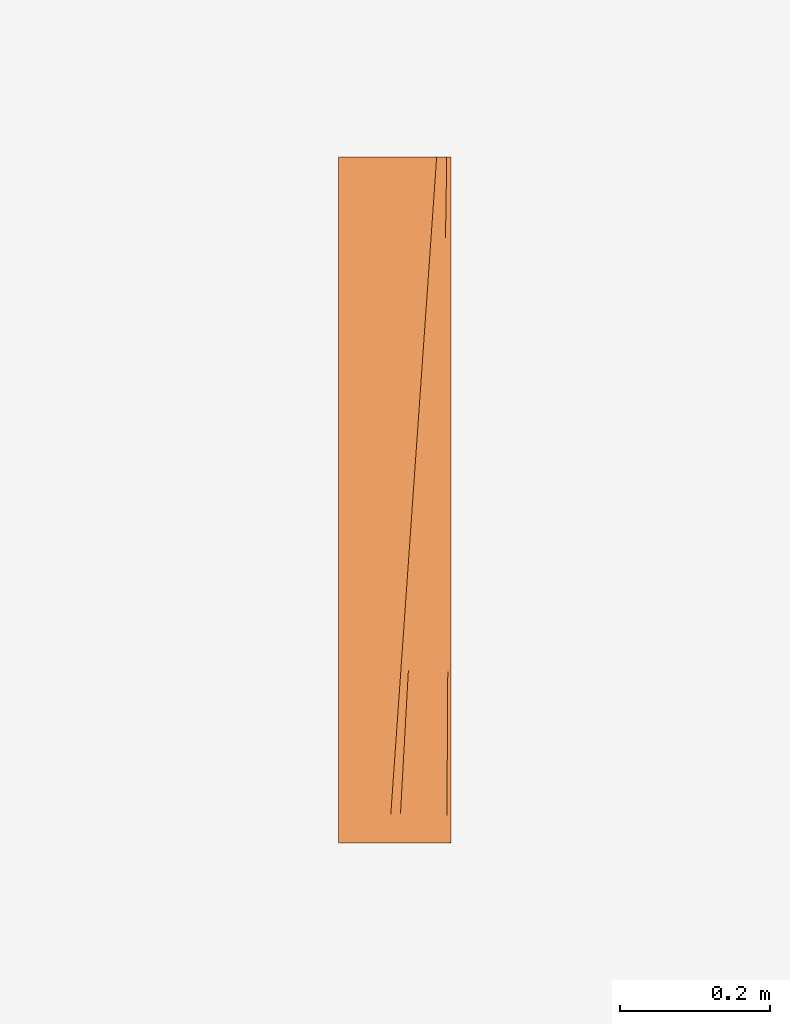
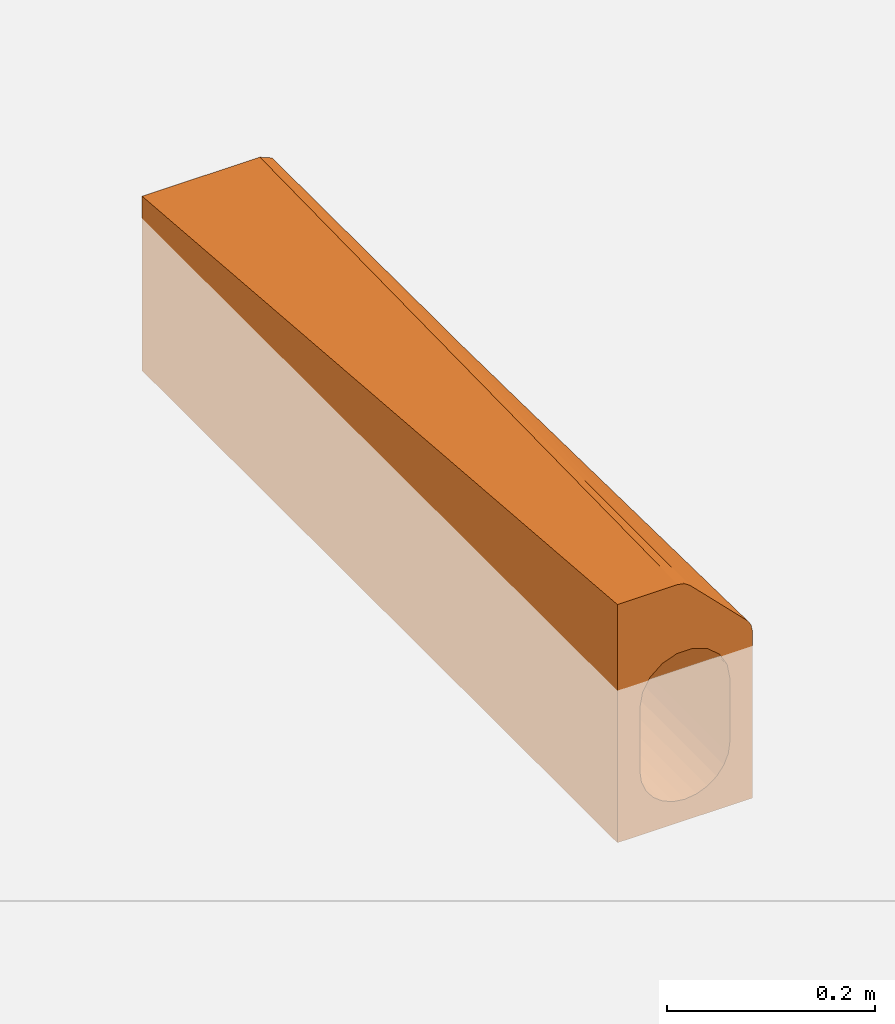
# One storey, part 2 of 2: 1 proxy.
"""IFC2X3 building model written with IfcOpenShell, lengths in millimetres."""

from ifc_helpers import new_model, entity, si_unit, converted_unit, direction, frame, origin, place, context, subcontext, project, spatial, face_set, surface_model, source, transform, mapped, material, element, save


model = new_model("IFC2X3")

# Units and contexts
model_context = context("Model", 3, precision=1e-06, world=origin(), true_north=direction((2.0, 6.12303176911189e-17, 1.0)))
context_of_model = context(None, 3, precision=1e-06, world=origin(), true_north=direction((2.0, 6.12303176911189e-17, 1.0)))
body_context = subcontext(model_context, "Body", "Model", "MODEL_VIEW")
ifc_project = project(units=[si_unit("LENGTHUNIT", "METRE", prefix="MILLI"), si_unit("AREAUNIT", "SQUARE_METRE", prefix="MILLI"), si_unit("VOLUMEUNIT", "CUBIC_METRE", prefix="MILLI"), converted_unit("PLANEANGLEUNIT", "DEGREE", entity("IfcRatioMeasure", 0.0174532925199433), si_unit("PLANEANGLEUNIT", "RADIAN"), dimensions=[0, 0, 0, 0, 0, 0, 0]), si_unit("TIMEUNIT", "SECOND")], contexts=[model_context, context_of_model])

# Site, building, storey
site_placement = place(None, origin())
site = spatial("IfcSite", under=ifc_project, at=site_placement, Name="Default", CompositionType="ELEMENT")
building_placement = place(site_placement, origin())
building = spatial("IfcBuilding", under=site, at=building_placement, CompositionType="ELEMENT")
storey_placement = place(building_placement, origin())
storey = spatial("IfcBuildingStorey", under=building, at=storey_placement, Name="Level 1", CompositionType="ELEMENT", Elevation=0.0)

# Proxy
ifc_material = material(Name="ACO Polymer Concrete.")
shared_shape = source(origin(), body_context, "Body", "SurfaceModel", [
    surface_model("IfcFaceBasedSurfaceModel", [(-75.0, 915.0, 25.0), (56.0, 915.0, 25.0), (69.4350288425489, 915.0, 19.4350288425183), (75.0, 915.0, 6.0), (75.0, 915.0, -180.0), (-75.0, 915.0, -180.0), (50.0, 915.0, -105.0), (48.2962913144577, 915.0, -117.940952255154), (43.3012701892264, 915.0, -130.0), (35.3553390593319, 915.0, -140.355339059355), (25.0, 915.0, -148.30127018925), (12.9409522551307, 915.0, -153.296291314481), (0.0, 915.0, -155.0), (-12.9409522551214, 915.0, -153.296291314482), (-25.0, 915.0, -148.30127018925), (-35.3553390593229, 915.0, -140.355339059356), (-43.3012701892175, 915.0, -130.0), (-48.2962913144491, 915.0, -117.940952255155), (-50.0, 915.0, -105.0), (-46.9862384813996, 915.0, -87.9034098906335), (-38.3113968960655, 915.0, -72.8715567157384), (-25.0056217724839, 915.0, -61.7019760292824), (-8.68555356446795, 915.0, -55.7601669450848), (8.67358370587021, 915.0, -55.7580570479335), (25.0023871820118, 915.0, -61.7001081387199), (38.2971791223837, 915.0, -72.8546104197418), (46.9851789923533, 915.0, -87.90049839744), (-75.0, 0.0, 100.0), (-75.0, 0.0, -180.0), (75.0, 0.0, -180.0), (75.0, 0.0, 17.1299423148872), (73.5537111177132, 0.0, 24.4009275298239), (69.4350288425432, 0.0, 30.5649711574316), (5.56497115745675, 0.0, 94.4350288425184), (-0.599072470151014, 0.0, 98.5537111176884), (-7.87005768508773, 0.0, 100.0), (50.0, 0.0, -105.0), (48.2962913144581, 0.0, -117.940952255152), (43.301270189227, 0.0, -130.0), (35.3553390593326, 0.0, -140.355339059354), (25.0, 0.0, -148.301270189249), (12.9409522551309, 0.0, -153.296291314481), (0.0, 0.0, -155.0), (-12.9409522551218, 0.0, -153.296291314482), (-25.0, 0.0, -148.30127018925), (-35.3553390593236, 0.0, -140.355339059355), (-43.3012701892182, 0.0, -130.0), (-48.2962913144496, 0.0, -117.940952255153), (-50.0, 0.0, -105.0), (-50.0, 0.0, -30.0), (-46.9851789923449, 0.0, -12.9004983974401), (-38.2971791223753, 0.0, 2.14538958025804), (-25.0023871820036, 0.0, 13.2998918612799), (-8.67358370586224, 0.0, 19.2419429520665), (8.68555356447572, 0.0, 19.2398330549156), (25.0056217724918, 0.0, 13.2980239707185), (38.3113968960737, 0.0, 2.12844328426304), (46.9862384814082, 0.0, -12.9034098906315), (50.0, 0.0, -30.0), (30.0527895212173, 543.281264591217, 55.468748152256), (28.0568493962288, 514.687515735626, 57.8125004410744), (33.7960589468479, 512.172698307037, 55.5686602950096), (11.2966260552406, 274.581186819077, 77.4933440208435), (19.6805142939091, 256.086349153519, 75.0018445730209), (21.6970200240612, 292.670108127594, 72.2256740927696), (3.63561934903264, 164.829891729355, 86.4893519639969), (13.6309959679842, 146.335054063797, 83.3303514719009), (15.6475016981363, 182.918813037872, 80.5541855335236), (13.8502958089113, 311.164945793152, 74.494676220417), (23.7135280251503, 329.253885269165, 69.4495081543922), (26.0609115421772, 486.093766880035, 60.1562481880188), (31.7795532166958, 475.588921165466, 58.3448307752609), (0.759200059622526, 123.622414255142, 89.8670164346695), (11.6144902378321, 109.751286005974, 86.1065174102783), (44.0243658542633, 743.437470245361, 39.0625002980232), (44.643168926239, 708.962612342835, 40.6352013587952), (46.9145373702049, 750.170126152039, 37.5081620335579), (42.371805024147, 667.755171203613, 43.7622406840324), (40.0324856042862, 686.24997253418, 43.750000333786), (38.0365454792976, 657.656223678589, 46.0937480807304), (51.4572697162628, 832.585081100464, 31.2540811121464), (53.7286336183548, 873.792522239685, 28.1270395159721), (52.0081218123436, 857.812465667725, 29.6875002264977), (-4.99363823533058, 41.2074729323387, 96.6223362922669), (9.59798337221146, 73.1675270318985, 88.8826924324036), (-2.11721922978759, 82.4149458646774, 93.2446809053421), (54.5617904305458, 894.396279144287, 26.6888301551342), (42.0284257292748, 714.843721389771, 41.4062480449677), (6.18928825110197, 201.41365070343, 83.4906887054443), (50.012181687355, 829.218716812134, 32.031250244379), (48.0162415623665, 800.624967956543, 34.3750002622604), (29.7630452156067, 439.005180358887, 61.1210012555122), (21.5113027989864, 420.916240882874, 65.4986682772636), (27.7465394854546, 402.421403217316, 63.8971671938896), (24.0649714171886, 457.500018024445, 62.5000004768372), (49.1859012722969, 791.37756729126, 34.3811204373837), (46.0203014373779, 772.031219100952, 36.7187502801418), (7.8363375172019, 41.2074729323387, 91.307989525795), (17.6640085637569, 219.502572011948, 77.7780105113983), (8.74295743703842, 237.997409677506, 80.4920163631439), (16.4039644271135, 347.748722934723, 71.4960084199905), (25.7300337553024, 365.837626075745, 66.6733376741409), (18.9576330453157, 384.332463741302, 68.4973406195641), (34.0446675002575, 600.468762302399, 50.7812481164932), (40.1004365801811, 626.547730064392, 46.8892845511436), (36.040607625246, 629.062474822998, 48.4375003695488), (35.812564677, 548.756475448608, 52.7924943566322), (32.0487273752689, 571.875013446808, 53.1250004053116), (37.8290704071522, 585.340216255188, 50.0163238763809), (58.8097051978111, 777.065141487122, 30.6887427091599), (62.4159394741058, 713.889637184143, 28.9004002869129), (67.8546563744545, 814.444836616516, 22.0573177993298), (49.8624769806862, 803.652108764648, 33.4496661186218), (73.6455774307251, 692.304181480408, 11.9787065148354), (70.2106399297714, 733.439461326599, 18.8156461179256), (65.5353529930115, 640.36970615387, 25.9328488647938), (36.1602224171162, 136.841810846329, 62.1197275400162), (43.1060579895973, 124.576380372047, 55.3764890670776), (47.3887317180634, 197.433170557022, 50.1880385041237), (62.0070754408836, 544.78509721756, 30.92911003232), (72.9315448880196, 574.90208158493, 15.1305967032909), (59.2327307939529, 401.883209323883, 35.428762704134), (65.8534930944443, 482.101278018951, 26.7334904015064), (58.8931485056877, 470.605395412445, 35.1300890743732), (74.3227890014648, 803.652108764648, 8.98935353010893), (51.5963963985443, 597.513383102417, 40.4441565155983), (53.4287018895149, 701.267006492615, 36.4416278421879), (47.3378899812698, 267.964475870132, 49.4017538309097), (33.3425823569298, 265.385127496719, 62.8098425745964), (41.9999981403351, 508.424925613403, 50.0587404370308), (50.7243293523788, 521.022993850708, 42.6570437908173), (70.1306484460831, 114.375004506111, 27.4943496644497), (61.9370897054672, 77.4052770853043, 36.7591820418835), (31.4499017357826, 469.608363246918, 58.7986684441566), (24.9786692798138, 352.20626335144, 67.7077585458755), (36.1128166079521, 392.42855386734, 57.7021465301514), (37.5874268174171, 580.956290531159, 50.3490025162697), (60.2957109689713, 268.177962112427, 35.7472479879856), (71.5218925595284, 343.12498626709, 21.3531070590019), (66.344406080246, 385.782702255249, 27.2166912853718), (18.5074368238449, 234.804181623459, 76.6168441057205), (54.1780929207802, 75.6421170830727, 44.7533638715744), (46.5116368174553, 71.6584167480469, 52.586602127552), (46.6634625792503, 0.0, 53.3365381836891), (24.7988337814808, 96.6575176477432, 73.7757339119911), (11.7024958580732, 111.347909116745, 85.9853583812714), (47.0048343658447, 443.488554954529, 47.3075638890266), (43.5697242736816, 344.16878156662, 52.0572194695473), (30.0407898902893, 179.322938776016, 67.3952094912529), (26.1142172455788, 0.0, 73.8857835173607), (16.9507549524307, 0.0, 83.0492458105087), (36.3888399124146, 0.0, 63.6111608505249), (58.0492456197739, 0.0, 41.9507551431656), (50.9294494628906, 145.685884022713, 47.1844064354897), (61.5519751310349, 150.853074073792, 36.0069977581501), (70.8262727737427, 228.750009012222, 24.4237294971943), (72.217512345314, 457.500018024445, 18.282485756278), (43.7249518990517, 692.304181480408, 41.8993320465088), (72.7392283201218, 543.281264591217, 15.979519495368), (72.5653245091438, 514.687515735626, 16.7471745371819), (75.0000005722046, 511.463039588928, 10.9085717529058), (71.1065563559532, 274.834623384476, 23.1864957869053), (75.0000005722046, 255.731519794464, 14.0192569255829), (75.0000005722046, 292.26459145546, 13.5748731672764), (70.439981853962, 165.235408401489, 26.1289011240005), (75.0000005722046, 146.13229572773, 15.3524082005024), (75.0000005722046, 182.665376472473, 14.9080244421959), (71.328749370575, 311.367695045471, 22.2056940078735), (75.0000005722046, 328.797663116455, 13.1304894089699), (72.3914206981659, 486.093766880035, 17.5148307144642), (75.0000005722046, 474.929949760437, 11.3529555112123), (70.1887435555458, 123.926556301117, 27.2379200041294), (75.0000005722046, 109.599214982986, 15.7967919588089), (73.9565686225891, 743.437470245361, 10.6059319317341), (73.7826648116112, 714.843721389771, 11.3735869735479), (75.0000005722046, 749.764554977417, 8.00990239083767), (74.1304724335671, 772.031219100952, 9.83827688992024), (73.0870404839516, 600.468762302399, 14.4442082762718), (75.0000005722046, 625.838035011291, 9.51732877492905), (73.2609442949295, 629.062474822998, 13.676553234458), (75.0000005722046, 832.382259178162, 7.00495090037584), (75.0000005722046, 873.691147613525, 6.50247543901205), (74.6521884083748, 857.812465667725, 7.5353106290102), (69.6862669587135, 41.3088521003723, 29.4559532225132), (75.0000005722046, 73.066143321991, 16.2411745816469), (69.9375052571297, 82.6177042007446, 28.3469366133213), (75.0000005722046, 708.455739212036, 8.51237785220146), (73.6087564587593, 686.24997253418, 12.1412431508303), (75.0000005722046, 667.146850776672, 9.01485331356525), (74.8743814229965, 894.345555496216, 6.55450884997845), (70.6621703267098, 201.768480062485, 25.1480993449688), (74.4782845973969, 829.218716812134, 8.30296623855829), (74.3043807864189, 800.624967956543, 9.07062128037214), (75.0000005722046, 584.529182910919, 10.0198042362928), (75.0000005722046, 438.396896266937, 11.7973392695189), (71.9953238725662, 420.966928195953, 19.2632886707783), (75.0000005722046, 401.863806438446, 12.2417230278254), (75.0000005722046, 791.073443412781, 7.50742692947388), (75.0000005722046, 41.3088566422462, 16.6274666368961), (75.0000005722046, 219.198448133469, 14.4636406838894), (70.8843633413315, 238.30155172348, 24.167297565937), (71.5509378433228, 347.900784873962, 21.2248922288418), (75.0000005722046, 365.330752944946, 12.6861067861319), (71.7731308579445, 384.433838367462, 20.24409044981), (73.4348526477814, 657.656223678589, 12.9088981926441), (75.0000005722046, 547.996093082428, 10.4641879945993), (72.9131366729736, 571.875013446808, 15.2118644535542), (43.2997098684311, 777.132942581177, -68.6967198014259), (42.6411790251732, 915.000036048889, -80.3775520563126), (8.3857748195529, 766.000918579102, -43.4951921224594), (16.8379859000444, 915.000036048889, -58.7290823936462), (47.4827621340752, 114.080636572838, -23.6860315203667), (50.0000003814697, 114.375004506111, -39.3749993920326), (-10.8721005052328, 640.871492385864, -33.7267862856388), (-4.43783294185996, 545.661896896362, -24.9237194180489), (-0.0060736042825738, 657.983674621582, -33.9330895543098), (28.5980409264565, 295.751388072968, -13.2278705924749), (24.3474986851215, 390.105694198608, -18.3043832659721), (15.9775744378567, 310.475416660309, -8.07035984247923), (47.4659435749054, 804.28266620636, -80.2090757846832), (47.9838534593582, 694.015850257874, -72.8313102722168), (-17.0980888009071, 178.787542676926, 2.33097699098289), (-16.8379859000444, 0.0, 16.2709170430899), (31.649782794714, 915.000036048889, -67.2773614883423), (28.6789089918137, 817.715567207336, -56.0683254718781), (36.4132751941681, 809.982536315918, -62.1272534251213), (-41.8195176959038, 498.079990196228, -43.4195154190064), (-32.1374256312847, 454.81275472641, -28.975872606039), (-34.4982167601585, 604.026030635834, -43.3181635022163), (48.3140704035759, 535.559824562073, -61.0239368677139), (50.0000003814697, 571.875013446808, -76.8750042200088), (48.3354081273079, 375.211399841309, -47.9609533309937), (43.588173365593, 454.654116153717, -42.7703817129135), (48.0698765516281, 227.323024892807, -34.8748675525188), (43.1075431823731, 136.083572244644, -15.8218063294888), (-23.0668696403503, 813.715447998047, -52.3367491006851), (-16.8455878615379, 915.000036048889, -58.7310717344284), (31.6585100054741, 0.0, 7.71323343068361), (35.3640568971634, 96.2497572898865, -2.54270566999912), (27.5155920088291, 103.510505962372, 3.26349311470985), (17.098095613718, 457.513098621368, -20.5153833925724), (18.1806535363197, 604.410018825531, -32.9643010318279), (6.9780454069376, 540.789737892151, -24.8163517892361), (-0.00607558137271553, 803.244648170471, -45.8397210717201), (27.3575915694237, 506.274439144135, -29.6462373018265), (-25.2797205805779, 208.04224319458, -3.91407880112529), (-23.5494914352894, 104.339161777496, 5.55454149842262), (-17.1055545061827, 736.216181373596, -43.3626102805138), (-47.9420409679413, 375.808202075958, -46.606739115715), (-50.0000003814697, 343.124949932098, -58.1249949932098), (-48.2819548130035, 236.400722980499, -36.3827696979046), (-25.0144547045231, 517.754479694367, -29.1459703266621), (-15.4204341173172, 521.820219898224, -25.2094509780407), (-21.9027124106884, 623.276345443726, -36.1407990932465), (0.00608078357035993, 256.975339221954, -1.06355259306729), (-11.6799363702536, 268.932076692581, -3.42695856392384), (-6.7226501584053, 167.886772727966, 5.78478725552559), (16.8455878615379, 0.0, 16.2689288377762), (5.30268947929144, 138.013523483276, 8.40543545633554), (17.1055590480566, 163.445019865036, 3.5858406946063), (-48.2485584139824, 690.37195930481, -73.4700612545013), (-45.0843483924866, 787.970725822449, -72.9682931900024), (-48.7339212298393, 813.765808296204, -85.5215512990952), (-39.9185981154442, 154.219620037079, -12.5327208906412), (-32.1374301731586, 161.725829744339, -4.95235714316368), (37.8481144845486, 653.083683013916, -50.8585190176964), (-50.0000003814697, 800.624967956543, -95.6249952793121), (-50.0000003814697, 457.499945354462, -67.4999950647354), (-48.1561857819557, 549.168623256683, -61.5608681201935), (-43.2997098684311, 255.813491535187, -25.9656184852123), (32.6732691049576, 395.289825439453, -24.5529866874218), (36.664331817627, 527.926751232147, -39.2767041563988), (36.841094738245, 286.946983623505, -19.7158977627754), (50.0000003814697, 457.500018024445, -67.5000041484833), (4.8831492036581, 395.013243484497, -12.6171577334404), (-31.6585100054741, 915.000036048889, -67.2867677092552), (-32.1473337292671, 753.270227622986, -53.4479140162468), (-9.84648973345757, 375.486237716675, -11.7566804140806), (-50.0000003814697, 571.874940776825, -76.874995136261), (-36.337600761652, 326.024576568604, -22.3783306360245), (-26.0229301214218, 308.269264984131, -12.5736284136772), (-24.6972411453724, 412.408838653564, -20.3293391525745), (-48.8401919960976, 92.8321061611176, -26.9023913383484), (17.0980933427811, 751.306902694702, -44.5968418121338), (10.2395843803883, 670.981718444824, -36.0582210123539), (24.8214500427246, 192.491902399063, -2.37415814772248), (32.1473360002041, 192.499514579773, -7.48310349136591), (-39.6865901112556, 750.086119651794, -61.0690694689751), (-18.3846586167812, 347.344968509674, -11.9735412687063), (-45.5776685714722, 130.339364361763, -20.1244620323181), (43.2997098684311, 610.898685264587, -55.0709617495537), (50.0000003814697, 686.250045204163, -86.2500042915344), (43.3060139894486, 298.404242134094, -29.4675826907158), (50.0000003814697, 343.125022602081, -58.1250040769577), (31.1494772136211, 607.99660949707, -40.7242811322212), (32.1374324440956, 720.431171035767, -50.7478789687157), (50.0000003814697, 228.750009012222, -48.7499994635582), (24.9975566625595, 735.869036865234, -47.0144540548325), (50.0000003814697, 800.625040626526, -95.62500436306), (-25.2423750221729, 713.151891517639, -45.2946462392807), (-43.3060139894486, 656.756496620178, -58.840721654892), (-42.6575706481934, 377.150925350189, -34.8308431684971), (-50.0000003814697, 228.749972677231, -48.7499949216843), (-50.0000003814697, 686.24997253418, -86.2499952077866), (-50.0000003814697, 114.374986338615, -39.3749993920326), (-42.6411790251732, 0.0, -5.37755432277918)], [face_set([[[0, 1, 2, 3, 4, 5], [6, 7, 8, 9, 10, 11, 12, 13, 14, 15, 16, 17, 18, 19, 20, 21, 22, 23, 24, 25, 26]], [[27, 28, 29, 30, 31, 32, 33, 34, 35], [36, 37, 38, 39, 40, 41, 42, 43, 44, 45, 46, 47, 48, 49, 50, 51, 52, 53, 54, 55, 56, 57, 58]], [[0, 5, 28, 27]], [[5, 4, 29, 28]], [[4, 3, 30, 29]], [[1, 0, 27, 35]], [[46, 47, 17, 16]], [[45, 46, 16, 15]], [[43, 44, 14, 13]], [[44, 45, 15, 14]], [[42, 43, 13, 12]], [[47, 48, 18, 17]], [[40, 41, 11, 10]], [[39, 40, 10, 9]], [[37, 38, 8, 7]], [[38, 39, 9, 8]], [[36, 37, 7, 6]], [[12, 11, 41, 42]], [[59, 60, 61]], [[62, 63, 64]], [[65, 66, 67]], [[68, 64, 69]], [[61, 70, 71]], [[66, 72, 73]], [[74, 75, 76]], [[77, 78, 79]], [[80, 81, 82]], [[83, 84, 85]], [[75, 78, 77]], [[82, 81, 86]], [[66, 65, 72]], [[81, 1, 86]], [[75, 87, 78]], [[88, 65, 67]], [[89, 90, 80, 82]], [[91, 92, 93]], [[94, 91, 71]], [[95, 96, 76]], [[96, 95, 90]], [[97, 84, 83]], [[85, 84, 73]], [[34, 33, 97]], [[83, 35, 34]], [[34, 97, 83]], [[64, 68, 62]], [[98, 99, 88]], [[100, 68, 69]], [[91, 94, 92]], [[101, 102, 100]], [[103, 104, 105]], [[85, 73, 72]], [[98, 88, 67]], [[101, 100, 69]], [[106, 107, 59]], [[108, 107, 106]], [[75, 74, 87]], [[96, 74, 76]], [[80, 90, 95]], [[99, 98, 63]], [[102, 101, 93]], [[99, 63, 62]], [[105, 104, 79]], [[102, 93, 92]], [[103, 107, 108]], [[59, 61, 106]], [[70, 61, 60]], [[70, 94, 71]], [[104, 103, 108]], [[77, 79, 104]], [[109, 110, 111]], [[109, 1, 112]], [[113, 114, 115]], [[116, 117, 118]], [[3, 2, 111]], [[115, 119, 120]], [[114, 111, 110]], [[121, 122, 123]], [[113, 124, 114]], [[125, 119, 115]], [[110, 109, 126]], [[127, 128, 116]], [[129, 130, 125]], [[131, 132, 32]], [[133, 134, 135]], [[129, 136, 133]], [[112, 126, 109]], [[137, 138, 139]], [[129, 125, 136]], [[128, 134, 140]], [[121, 139, 122]], [[141, 142, 143]], [[144, 140, 145]], [[146, 129, 135]], [[135, 147, 146]], [[148, 140, 144]], [[149, 144, 150]], [[151, 142, 117]], [[152, 132, 141]], [[153, 154, 137]], [[132, 154, 141]], [[144, 149, 116]], [[155, 154, 131]], [[145, 33, 150]], [[144, 116, 148]], [[145, 150, 144]], [[147, 121, 146]], [[127, 118, 137]], [[138, 156, 139]], [[121, 127, 137]], [[137, 154, 155]], [[154, 153, 141]], [[137, 155, 138]], [[125, 157, 136]], [[142, 141, 153]], [[152, 141, 143]], [[32, 132, 152]], [[131, 154, 132]], [[153, 117, 142]], [[118, 117, 153]], [[151, 116, 149]], [[151, 143, 142]], [[151, 117, 116]], [[137, 118, 153]], [[116, 118, 127]], [[134, 128, 135]], [[147, 128, 127]], [[128, 147, 135]], [[121, 147, 127]], [[135, 129, 133]], [[129, 146, 130]], [[123, 130, 146]], [[119, 125, 130]], [[116, 128, 148]], [[140, 148, 128]], [[124, 3, 111]], [[115, 114, 110]], [[124, 111, 114]], [[2, 1, 109]], [[125, 115, 110]], [[122, 120, 119]], [[109, 111, 2]], [[113, 115, 120]], [[126, 112, 157]], [[157, 125, 126]], [[125, 110, 126]], [[120, 122, 156]], [[123, 122, 119]], [[130, 123, 119]], [[146, 121, 123]], [[122, 139, 156]], [[137, 139, 121]], [[158, 159, 160]], [[161, 162, 163]], [[164, 165, 166]], [[167, 163, 168]], [[160, 169, 170]], [[165, 171, 172]], [[173, 174, 175, 176]], [[177, 178, 179]], [[180, 181, 182]], [[183, 184, 185]], [[186, 187, 188]], [[182, 181, 189]], [[165, 164, 171]], [[181, 3, 189]], [[186, 174, 187]], [[190, 164, 166]], [[191, 192, 180]], [[178, 177, 193]], [[194, 195, 196]], [[156, 194, 170]], [[197, 176, 175]], [[176, 197, 192]], [[198, 184, 183]], [[185, 184, 172]], [[31, 30, 198]], [[183, 32, 31]], [[31, 198, 183]], [[163, 167, 161]], [[199, 200, 190]], [[201, 167, 168]], [[194, 156, 195]], [[202, 203, 201]], [[179, 178, 204]], [[185, 172, 171]], [[199, 190, 166]], [[202, 201, 168]], [[205, 206, 158]], [[193, 206, 205]], [[175, 174, 186]], [[180, 182, 191]], [[180, 192, 197]], [[200, 199, 162]], [[203, 202, 196]], [[200, 162, 161]], [[188, 204, 178]], [[203, 196, 195]], [[177, 206, 193]], [[188, 187, 204]], [[158, 160, 205]], [[169, 160, 159]], [[169, 156, 170]], [[48, 49, 18]], [[25, 207, 208]], [[209, 210, 23]], [[211, 58, 212]], [[213, 214, 215]], [[216, 217, 218]], [[219, 207, 220]], [[221, 222, 53]], [[223, 224, 225]], [[226, 227, 228]], [[229, 230, 220]], [[231, 229, 232]], [[212, 233, 211]], [[234, 57, 211]], [[21, 235, 236]], [[237, 238, 239]], [[240, 241, 242]], [[239, 55, 237]], [[215, 243, 213]], [[241, 240, 244]], [[245, 246, 221]], [[23, 22, 243]], [[247, 22, 236]], [[248, 249, 250]], [[251, 252, 253]], [[56, 238, 237]], [[254, 255, 256]], [[257, 55, 239]], [[218, 258, 259]], [[260, 261, 262]], [[263, 51, 264]], [[51, 52, 264]], [[225, 265, 207]], [[18, 266, 262]], [[223, 24, 224]], [[248, 267, 249]], [[247, 213, 243]], [[248, 226, 268]], [[250, 269, 248]], [[244, 270, 271]], [[272, 270, 216]], [[229, 231, 273]], [[240, 274, 218]], [[235, 275, 276]], [[253, 252, 213]], [[277, 254, 274]], [[260, 278, 268]], [[279, 264, 280]], [[252, 251, 281]], [[50, 282, 49]], [[242, 274, 240]], [[224, 210, 283]], [[242, 241, 284]], [[216, 285, 286]], [[258, 254, 256]], [[287, 20, 261]], [[251, 228, 227]], [[245, 221, 288]], [[289, 263, 269]], [[270, 272, 232]], [[270, 232, 271]], [[223, 225, 25]], [[220, 207, 290]], [[229, 220, 290]], [[26, 219, 6]], [[232, 229, 290]], [[230, 291, 220]], [[233, 231, 292]], [[233, 293, 231]], [[232, 290, 271]], [[231, 232, 292]], [[234, 233, 292]], [[271, 294, 244]], [[234, 292, 272]], [[57, 234, 56]], [[295, 294, 265]], [[244, 240, 217]], [[233, 234, 211]], [[212, 296, 233]], [[297, 241, 294]], [[241, 244, 294]], [[284, 241, 283]], [[215, 214, 242]], [[274, 242, 214]], [[214, 277, 274]], [[254, 258, 218]], [[227, 281, 251]], [[255, 277, 288]], [[254, 218, 274]], [[259, 239, 285]], [[221, 255, 288]], [[279, 280, 227]], [[6, 219, 298]], [[220, 291, 298]], [[277, 214, 252]], [[253, 213, 247]], [[252, 214, 213]], [[247, 299, 253]], [[228, 251, 253]], [[253, 299, 228]], [[281, 227, 280]], [[287, 228, 276]], [[226, 228, 300]], [[268, 226, 300]], [[301, 279, 227]], [[268, 300, 260]], [[248, 268, 267]], [[249, 302, 250]], [[301, 269, 279]], [[280, 288, 281]], [[281, 288, 252]], [[288, 280, 245]], [[252, 288, 277]], [[256, 255, 221]], [[254, 277, 255]], [[246, 222, 221]], [[258, 53, 54]], [[53, 258, 256]], [[259, 258, 54]], [[265, 271, 290]], [[294, 295, 297]], [[271, 265, 294]], [[207, 265, 290]], [[301, 227, 226]], [[279, 269, 263]], [[226, 248, 301]], [[248, 269, 301]], [[261, 260, 300]], [[18, 262, 19]], [[287, 261, 300]], [[20, 19, 261]], [[261, 19, 262]], [[303, 260, 262]], [[262, 266, 303]], [[228, 287, 300]], [[219, 208, 207]], [[302, 304, 282]], [[289, 269, 250]], [[250, 302, 282]], [[282, 50, 289]], [[305, 51, 263]], [[289, 305, 263]], [[279, 263, 264]], [[250, 282, 289]], [[49, 282, 304]], [[243, 22, 247]], [[215, 284, 209]], [[224, 297, 295]], [[24, 210, 224]], [[224, 295, 225]], [[265, 225, 295]], [[25, 225, 207]], [[257, 239, 259]], [[241, 297, 283]], [[238, 234, 286]], [[234, 238, 56]], [[238, 286, 239]], [[285, 239, 286]], [[259, 54, 257]], [[286, 272, 216]], [[218, 259, 285]], [[217, 216, 270]], [[218, 285, 216]], [[234, 272, 286]], [[272, 292, 232]], [[244, 217, 270]], [[218, 217, 240]], [[276, 299, 235]], [[221, 53, 256]], [[23, 243, 209]], [[283, 297, 224]], [[276, 20, 287]], [[276, 275, 20]], [[229, 273, 230]], [[293, 233, 296]], [[293, 273, 231]], [[211, 57, 58]], [[209, 284, 283]], [[242, 284, 215]], [[209, 283, 210]], [[215, 209, 243]], [[280, 264, 245]], [[246, 264, 52]], [[264, 246, 245]], [[222, 246, 52]], [[298, 219, 220]], [[208, 219, 26]], [[235, 299, 247]], [[228, 299, 276]], [[236, 235, 247]], [[235, 21, 275]], [[278, 260, 303]], [[278, 267, 268]], [[289, 50, 305]], [[6, 58, 36]]])]),
])
proxy_placement = place(storey_placement, frame((-13460.350578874, -1522.05906174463, 0.0)))
element("IfcBuildingElementProxy", 1, at=proxy_placement, inside=storey, material=ifc_material, Name="Civil-Drainage-Channel-ACO-KerbDrain-SP280:7938 - LH drop kerb - 1000mm LG:7938 - LH drop kerb - 1000mm LG", ObjectType="7938 - LH drop kerb - 1000mm LG", CompositionType="ELEMENT", context=body_context, shape_type="MappedRepresentation", body=[
    mapped(shared_shape, transform((0.0, 0.0, 0.0), scale=1.0)),
])

save(model, "model.ifc")
